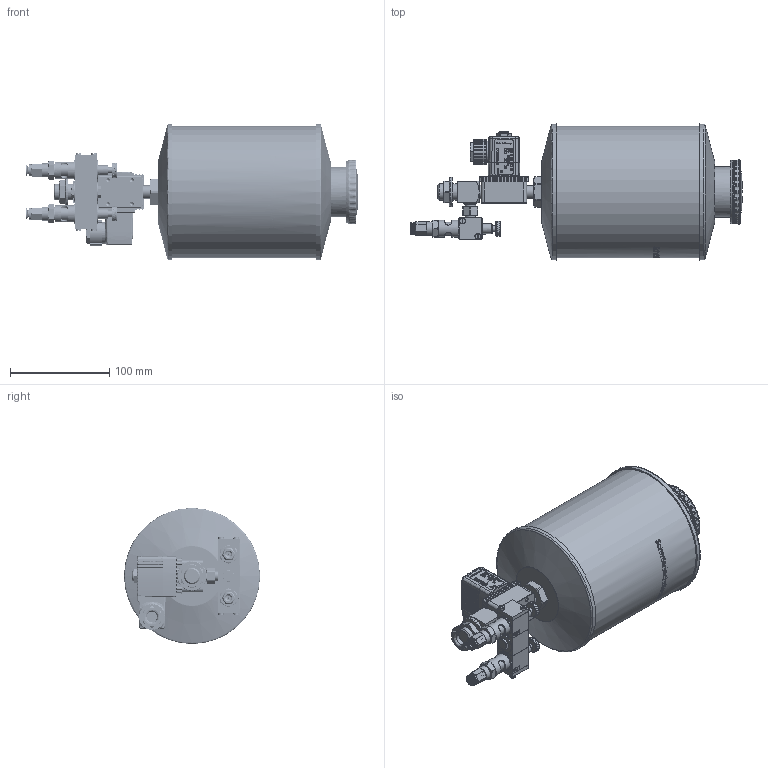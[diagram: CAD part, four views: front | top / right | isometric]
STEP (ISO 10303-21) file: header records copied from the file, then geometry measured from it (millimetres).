
FILE_DESCRIPTION (( 'STEP AP214' ), '1' );
FILE_NAME ('TRO_03_02_02_XXX.STEP', '2025-11-24T12:52:47', ( '' ), ( '' ), 'SwSTEP 2.0', 'SolidWorks 2022', '' );
FILE_SCHEMA (( 'AUTOMOTIVE_DESIGN' ));
Length unit declared in the file: millimetre
Products named in the file (17): TRO_Magnetventil_ohne; TRO_2er_mittel; 9911 0701 0601_6_1_8_HD; DR6_NEU; TRO_Behaelter_02; TRO_Magnetventil_Stecker; OR 7.66X1.78; TRO_03_02_02_XXX; TRO_2er; TRO_2er_mittel_Mit_Verschr.SLDPRT; OR 7.2X1.9_1; R200107-N1; TRO_Magnetventil_aktuell; TRO_Stutzen.SLDPRT; RIVOLUZIONE_0; TRO_Endplatte; DR6-C_HDX_25.07.16
Assembly tree (15 placements, depth 4):
  DR6_NEU
  TRO_03_02_02_XXX
    TRO_2er_mittel_Mit_Verschr.SLDPRT
      TRO_Stutzen.SLDPRT
        TRO_2er_mittel
      TRO_2er
      9911 0701 0601_6_1_8_HD  x2
        RIVOLUZIONE_0
        OR 7.66X1.78
        DR6-C_HDX_25.07.16
    TRO_Endplatte  x2
    TRO_Magnetventil_aktuell
      TRO_Magnetventil_ohne
      TRO_Magnetventil_Stecker
    TRO_Behaelter_02
  OR 7.2X1.9_1
  R200107-N1
Bounding box: 335.2 x 137.4 x 137.4 mm (x, y, z)
Volume: 448284.2 mm3; surface area: 295253.7 mm2
Topology: 18 solids, 18 shells, 6012 faces, 15736 edges, 9811 vertices
Faces by surface type: plane 2465, bspline 2060, cylinder 876, cone 608, torus 3
Full cylindrical faces by diameter (mm): 1.5 x2, 2 x2, 3.5 x6, 3.8 x2, 4.2 x2, 4.5 x2, 5.5 x4, 5.9 x4, 6 x2, 6.2 x2, 6.25 x1, 6.3 x2, 6.75 x1, 7 x3, 7.2 x2, 7.4 x1, 8 x2, 8.3 x2, 8.4 x1, 8.5 x1, 8.6 x5, 8.8 x1, 9 x3, 9.2 x1, 9.5 x2, 9.728 x2, 9.8 x1, 9.9 x2, 10 x8, 10.1 x1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
Entity records: 290616 total; most frequent: CARTESIAN_POINT 157559, ORIENTED_EDGE 30010, DIRECTION 17266, EDGE_CURVE 15005, VERTEX_POINT 9520, B_SPLINE_CURVE_WITH_KNOTS 6907, EDGE_LOOP 6441, AXIS2_PLACEMENT_3D 6397
